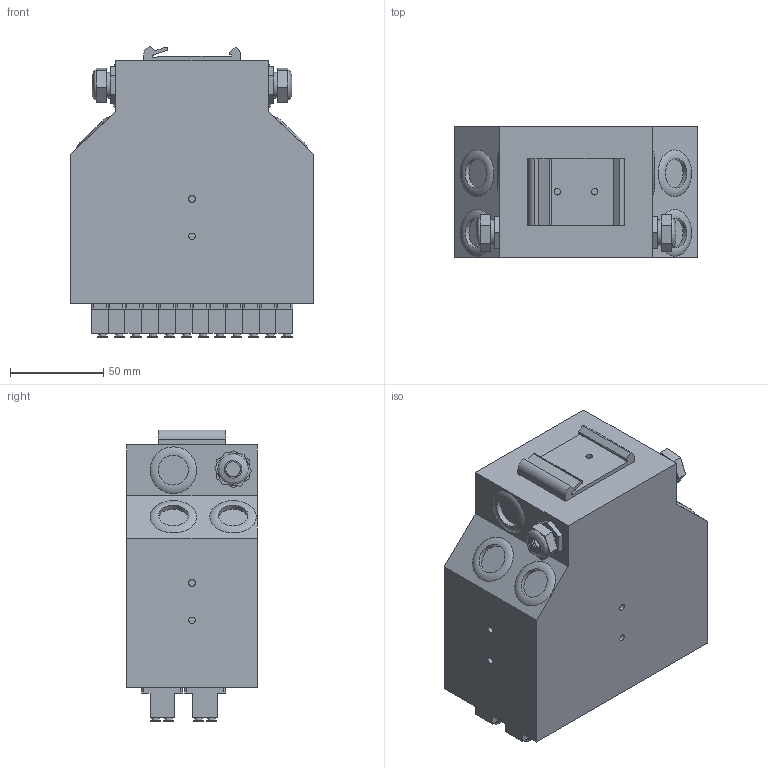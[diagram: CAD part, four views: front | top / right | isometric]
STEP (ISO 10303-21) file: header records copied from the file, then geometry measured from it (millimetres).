
FILE_DESCRIPTION(('TFLEX Exchange Step'),'2;1');
FILE_NAME('STK-OK-01-24LCD.stp', '2025-02-06T14:38:48+03:00',('Yuriy Romanov'),('Unknown organisation'),'TFLEX Exchange 2023.2','T-FLEX CAD','Unknown authorisation');
FILE_SCHEMA( ('AUTOMOTIVE_DESIGN { 1 0 10303 214 1 1 1 1 }') );
Length unit declared in the file: millimetre
Products named in the file (1): STK-OK-01-24LCD
Bounding box: 130 x 70 x 156.5 mm (x, y, z)
Volume: 1107180.8 mm3; surface area: 121095.5 mm2
Topology: 38 solids, 38 shells, 1446 faces, 3687 edges, 2503 vertices
Faces by surface type: plane 738, cylinder 448, bspline 128, cone 126, torus 6
Full cylindrical faces by diameter (mm): 3 x48, 3.5 x8, 4 x48, 5.5 x48, 8.05 x2, 8.823 x2, 9.2 x2, 11.932 x2, 12.555 x2, 13.8 x4, 16 x6, 20 x12
Entity records: 51727 total; most frequent: CARTESIAN_POINT 16574, ORIENTED_EDGE 7374, DIRECTION 7159, EDGE_CURVE 3687, AXIS2_PLACEMENT_3D 2770, VERTEX_POINT 2503, EDGE_LOOP 1648, FACE_BOUND 1648
